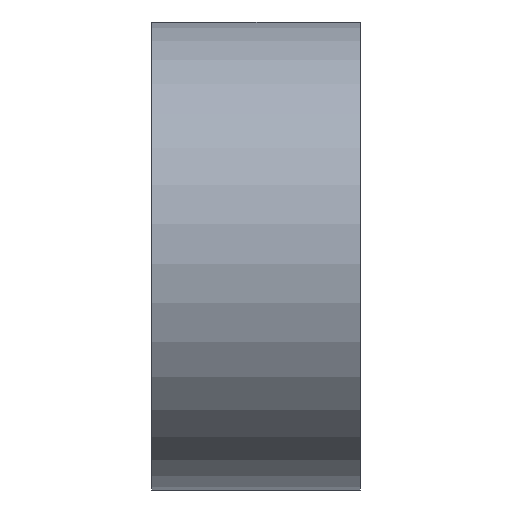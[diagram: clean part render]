
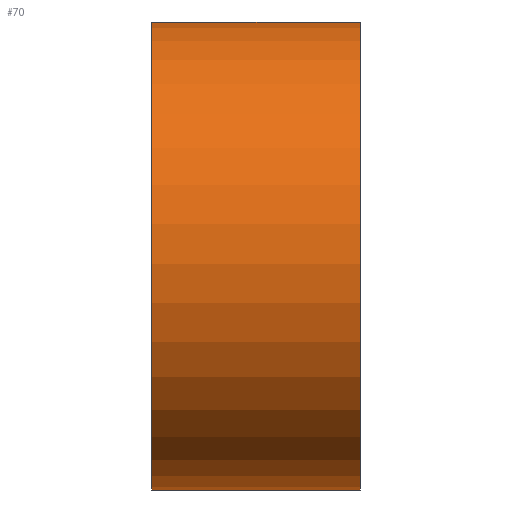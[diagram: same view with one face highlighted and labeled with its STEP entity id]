
A CAD part, left-side view. The second image highlights one B-rep face of the part: STEP entity #70.
In plain terms, the highlighted cylindrical face has radius 22.5 mm (diameter 45 mm), a partial arc.
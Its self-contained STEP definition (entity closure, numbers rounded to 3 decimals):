
#46 = EDGE_CURVE ( 'NONE', #1565, #1172, #1829, .T. ) ;
#55 = ORIENTED_EDGE ( 'NONE', *, *, #767, .F. ) ;
#70 = ADVANCED_FACE ( 'NONE', ( #899 ), #1990, .T. ) ;
#92 = VERTEX_POINT ( 'NONE', #1856 ) ;
#105 = DIRECTION ( 'NONE',  ( 0., 0., -1. ) ) ;
#124 = EDGE_LOOP ( 'NONE', ( #810, #1945, #55, #1553 ) ) ;
#131 = DIRECTION ( 'NONE',  ( 0., -1., 0. ) ) ;
#350 = DIRECTION ( 'NONE',  ( 0., 1., 0. ) ) ;
#757 = DIRECTION ( 'NONE',  ( 0., 0., 1. ) ) ;
#767 = EDGE_CURVE ( 'NONE', #92, #1172, #898, .T. ) ;
#798 = CARTESIAN_POINT ( 'NONE',  ( -141.613, 20., 12.968 ) ) ;
#810 = ORIENTED_EDGE ( 'NONE', *, *, #1855, .T. ) ;
#874 = CARTESIAN_POINT ( 'NONE',  ( -141.613, 20., 12.968 ) ) ;
#898 = CIRCLE ( 'NONE', #1707, 22.5 ) ;
#899 = FACE_OUTER_BOUND ( 'NONE', #124, .T. ) ;
#958 = CARTESIAN_POINT ( 'NONE',  ( -141.613, 0., 12.968 ) ) ;
#1100 = DIRECTION ( 'NONE',  ( 0., 1., 0. ) ) ;
#1172 = VERTEX_POINT ( 'NONE', #798 ) ;
#1321 = DIRECTION ( 'NONE',  ( 0., -1., 0. ) ) ;
#1353 = VECTOR ( 'NONE', #1321, 1000. ) ;
#1368 = EDGE_CURVE ( 'NONE', #92, #1609, #1488, .T. ) ;
#1488 = LINE ( 'NONE', #2206, #1353 ) ;
#1553 = ORIENTED_EDGE ( 'NONE', *, *, #1368, .T. ) ;
#1565 = VERTEX_POINT ( 'NONE', #958 ) ;
#1609 = VERTEX_POINT ( 'NONE', #1794 ) ;
#1614 = DIRECTION ( 'NONE',  ( 0., 1., 0. ) ) ;
#1615 = CARTESIAN_POINT ( 'NONE',  ( -160., 0., 0. ) ) ;
#1648 = DIRECTION ( 'NONE',  ( 0., 0., 1. ) ) ;
#1683 = VECTOR ( 'NONE', #1614, 1000. ) ;
#1707 = AXIS2_PLACEMENT_3D ( 'NONE', #2079, #350, #757 ) ;
#1759 = AXIS2_PLACEMENT_3D ( 'NONE', #2208, #131, #105 ) ;
#1794 = CARTESIAN_POINT ( 'NONE',  ( -160., 0., -22.5 ) ) ;
#1829 = LINE ( 'NONE', #874, #1683 ) ;
#1855 = EDGE_CURVE ( 'NONE', #1609, #1565, #1936, .T. ) ;
#1856 = CARTESIAN_POINT ( 'NONE',  ( -160., 20., -22.5 ) ) ;
#1863 = AXIS2_PLACEMENT_3D ( 'NONE', #1615, #1100, #1648 ) ;
#1936 = CIRCLE ( 'NONE', #1863, 22.5 ) ;
#1945 = ORIENTED_EDGE ( 'NONE', *, *, #46, .T. ) ;
#1990 = CYLINDRICAL_SURFACE ( 'NONE', #1759, 22.5 ) ;
#2079 = CARTESIAN_POINT ( 'NONE',  ( -160., 20., 0. ) ) ;
#2206 = CARTESIAN_POINT ( 'NONE',  ( -160., 20., -22.5 ) ) ;
#2208 = CARTESIAN_POINT ( 'NONE',  ( -160., 20., 0. ) ) ;
